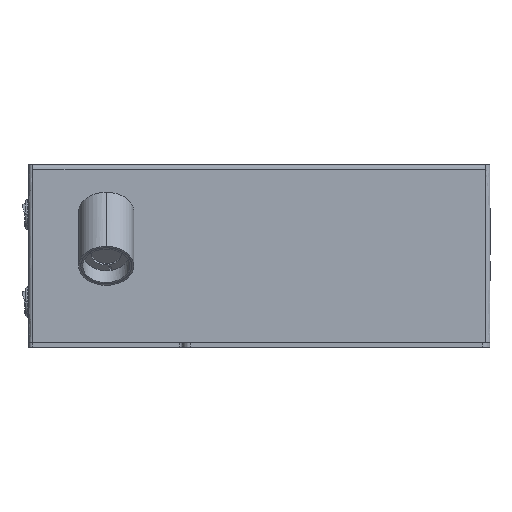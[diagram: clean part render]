
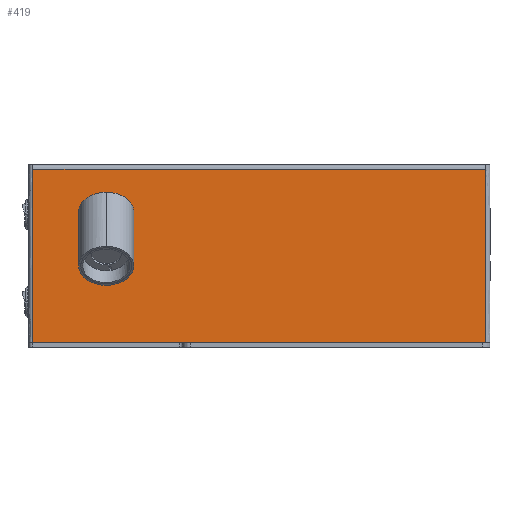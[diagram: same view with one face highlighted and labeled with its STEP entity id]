
A CAD part, front view. The second image highlights one B-rep face of the part: STEP entity #419.
In plain terms, the highlighted planar face has unit normal (0, -1, 0).
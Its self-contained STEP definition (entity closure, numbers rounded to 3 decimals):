
#157=FACE_BOUND('',#6627,.T.);
#419=ADVANCED_FACE('',(#3520,#157),#48908,.T.);
#3520=FACE_OUTER_BOUND('',#6626,.T.);
#6626=EDGE_LOOP('',(#10221,#10222,#10223,#10224));
#6627=EDGE_LOOP('',(#10225,#10226));
#10221=ORIENTED_EDGE('',*,*,#26853,.F.);
#10222=ORIENTED_EDGE('',*,*,#26790,.F.);
#10223=ORIENTED_EDGE('',*,*,#26791,.F.);
#10224=ORIENTED_EDGE('',*,*,#26792,.F.);
#10225=ORIENTED_EDGE('',*,*,#26899,.F.);
#10226=ORIENTED_EDGE('',*,*,#26731,.T.);
#26731=EDGE_CURVE('',#43465,#43466,#41329,.T.);
#26790=EDGE_CURVE('',#43529,#43524,#35123,.T.);
#26791=EDGE_CURVE('',#43530,#43529,#35124,.T.);
#26792=EDGE_CURVE('',#43517,#43530,#35125,.T.);
#26853=EDGE_CURVE('',#43524,#43517,#35178,.T.);
#26899=EDGE_CURVE('',#43465,#43466,#41373,.T.);
#35123=B_SPLINE_CURVE_WITH_KNOTS('',1,(#57890,#57891),.UNSPECIFIED.,.F.,
 .F.,(2,2),(-113.25,0.),.UNSPECIFIED.);
#35124=B_SPLINE_CURVE_WITH_KNOTS('',1,(#57892,#57893),.UNSPECIFIED.,.F.,
 .F.,(2,2),(-295.8,0.),.UNSPECIFIED.);
#35125=B_SPLINE_CURVE_WITH_KNOTS('',1,(#57894,#57895),.UNSPECIFIED.,.F.,
 .F.,(2,2),(-113.25,0.),.UNSPECIFIED.);
#35178=B_SPLINE_CURVE_WITH_KNOTS('',1,(#58024,#58025),.UNSPECIFIED.,.F.,
 .F.,(2,2),(0.,295.8),.UNSPECIFIED.);
#41329=(
BOUNDED_CURVE()
B_SPLINE_CURVE(2,(#57750,#57751,#57752,#57753,#57754),.UNSPECIFIED.,.F.,
 .F.)
B_SPLINE_CURVE_WITH_KNOTS((3,2,3),(-9.582,-4.791,
0.),.UNSPECIFIED.)
CURVE()
GEOMETRIC_REPRESENTATION_ITEM()
RATIONAL_B_SPLINE_CURVE((1.,0.707,1.,0.707,1.))
REPRESENTATION_ITEM('')
);
#41373=(
BOUNDED_CURVE()
B_SPLINE_CURVE(2,(#58158,#58159,#58160,#58161,#58162),.UNSPECIFIED.,.F.,
 .F.)
B_SPLINE_CURVE_WITH_KNOTS((3,2,3),(0.,4.791,9.582),
 .UNSPECIFIED.)
CURVE()
GEOMETRIC_REPRESENTATION_ITEM()
RATIONAL_B_SPLINE_CURVE((1.,0.707,1.,0.707,1.))
REPRESENTATION_ITEM('')
);
#43465=VERTEX_POINT('',#57616);
#43466=VERTEX_POINT('',#57617);
#43517=VERTEX_POINT('',#57668);
#43524=VERTEX_POINT('',#57675);
#43529=VERTEX_POINT('',#57680);
#43530=VERTEX_POINT('',#57681);
#48908=PLANE('',#51950);
#51950=AXIS2_PLACEMENT_3D('',#57232,#53926,$);
#53926=DIRECTION('',(0.,-1.,0.));
#57232=CARTESIAN_POINT('',(-177.48,92.937,129.563));
#57616=CARTESIAN_POINT('',(-103.05,92.937,89.388));
#57617=CARTESIAN_POINT('',(-96.95,92.937,89.388));
#57668=CARTESIAN_POINT('',(147.9,92.937,118.238));
#57675=CARTESIAN_POINT('',(-147.9,92.937,118.238));
#57680=CARTESIAN_POINT('',(-147.9,92.937,4.988));
#57681=CARTESIAN_POINT('',(147.9,92.937,4.988));
#57750=CARTESIAN_POINT('',(-103.05,92.937,89.388));
#57751=CARTESIAN_POINT('',(-103.05,92.937,92.438));
#57752=CARTESIAN_POINT('',(-100.,92.937,92.438));
#57753=CARTESIAN_POINT('',(-96.95,92.937,92.438));
#57754=CARTESIAN_POINT('',(-96.95,92.937,89.388));
#57890=CARTESIAN_POINT('',(-147.9,92.937,4.988));
#57891=CARTESIAN_POINT('',(-147.9,92.937,118.238));
#57892=CARTESIAN_POINT('',(147.9,92.937,4.988));
#57893=CARTESIAN_POINT('',(-147.9,92.937,4.988));
#57894=CARTESIAN_POINT('',(147.9,92.937,118.238));
#57895=CARTESIAN_POINT('',(147.9,92.937,4.988));
#58024=CARTESIAN_POINT('',(-147.9,92.937,118.238));
#58025=CARTESIAN_POINT('',(147.9,92.937,118.238));
#58158=CARTESIAN_POINT('',(-103.05,92.937,89.388));
#58159=CARTESIAN_POINT('',(-103.05,92.937,86.338));
#58160=CARTESIAN_POINT('',(-100.,92.937,86.338));
#58161=CARTESIAN_POINT('',(-96.95,92.937,86.338));
#58162=CARTESIAN_POINT('',(-96.95,92.937,89.388));
